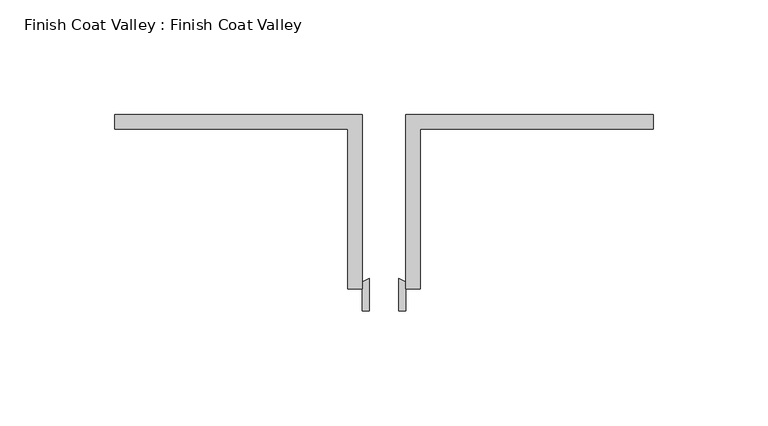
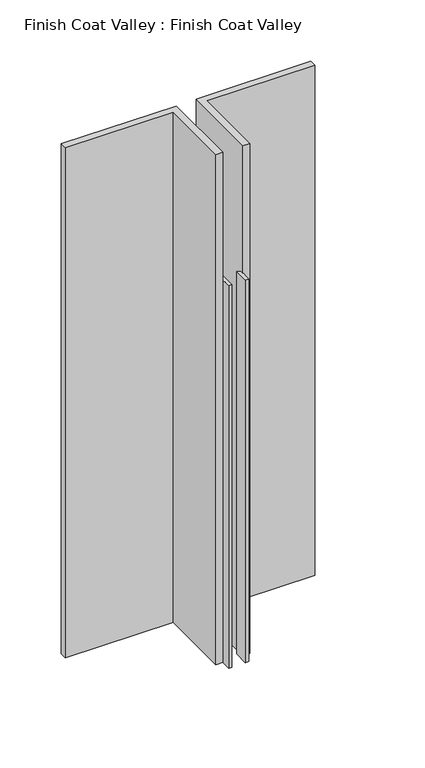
"""IFC4 building model written with IfcOpenShell, lengths in millimetres: proxy geometry, Finish Coat Valley : Finish Coat Valley."""

from ifc_helpers import new_model, si_unit, point, frame_2d, origin, origin_with_axes, place, context, project, spatial, polyline, circle_curve, trimmed, segment, composite_curve, outline, extrude, source, transform, mapped, element, save


def finish_coat_valley_finish_coat_valley_771a99fa(model_context):
    return source(origin(), model_context, "Body", "SweptSolid", [
        extrude(outline(polyline([(26834.4539273, 548.2566297), (26834.4539273, 624.4566297), (26942.4039273, 624.4566297), (26942.4039273, 618.1066297), (26840.8039273, 618.1066297), (26840.8039273, 548.2566297), (26834.4539273, 548.2566297)])), origin_with_axes(), (0.0, 0.0, 1.0), 508.0),
        extrude(outline(polyline([(26815.4039273, 624.4566297), (26815.4039273, 548.2566297), (26809.0539273, 548.2566297), (26809.0539273, 618.1066297), (26707.4539273, 618.1066297), (26707.4539273, 624.4566297), (26815.4039273, 624.4566297)])), origin_with_axes(), (0.0, 0.0, 1.0), 508.0),
        extrude(outline(composite_curve([segment(trimmed(circle_curve(frame_2d((26824.9289273, 534.9338457)), 19.05), [point((26815.4039273, 551.4316297))], [point((26818.5789273, 552.894358))], False, "CARTESIAN"), True, "CONTINUOUS"), segment(polyline([(26818.5789273, 552.894358), (26818.5789273, 538.7316297), (26815.4039273, 538.7316297), (26815.4039273, 551.4316297)]), True, "CONTINUOUS")], self_intersect=False)), origin_with_axes(), (0.0, 0.0, 1.0), 381.0),
        extrude(outline(composite_curve([segment(polyline([(26834.4539273, 538.7316297), (26831.2789273, 538.7316297), (26831.2789273, 552.894358)]), True, "CONTINUOUS"), segment(trimmed(circle_curve(frame_2d((26824.9289273, 534.9338457)), 19.05), [point((26831.2789273, 552.894358))], [point((26834.4539273, 551.4316297))], False, "CARTESIAN"), True, "CONTINUOUS"), segment(polyline([(26834.4539273, 551.4316297), (26834.4539273, 538.7316297)]), True, "CONTINUOUS")], self_intersect=False)), origin_with_axes(), (0.0, 0.0, 1.0), 381.0),
    ])


if __name__ == "__main__":
    model = new_model("IFC4")
    model_context = context("Model", 3, world=origin())
    ifc_project = project(units=[si_unit("LENGTHUNIT", "METRE", prefix="MILLI")], contexts=[model_context])
    site = spatial("IfcSite", under=ifc_project)
    building = spatial("IfcBuilding", under=site)
    placement = place(None, origin())
    finish_coat_valley_finish_coat_valley_shape = finish_coat_valley_finish_coat_valley_771a99fa(model_context)
    element("IfcBuildingElementProxy", 1, Name="Finish Coat Valley : Finish Coat Valley", ObjectType="Finish Coat Valley : Finish Coat Valley", at=placement, inside=building, context=model_context, shape_type="MappedRepresentation", body=[
        mapped(finish_coat_valley_finish_coat_valley_shape, transform((0.0, 0.0, 0.0), x_axis=(1.0, 0.0, 0.0), y_axis=(0.0, 1.0, 0.0), z_axis=(0.0, 0.0, 1.0))),
    ])
    save(model, "model.ifc")
